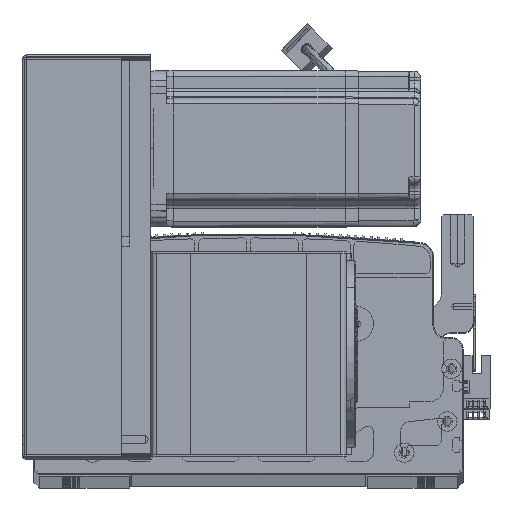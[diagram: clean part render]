
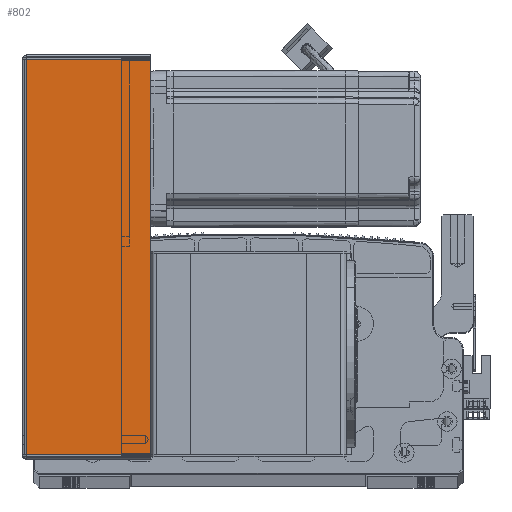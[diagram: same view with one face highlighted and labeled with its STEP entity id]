
A CAD part, top view. The second image highlights one B-rep face of the part: STEP entity #802.
In plain terms, the highlighted planar face has unit normal (0, 0, 1) as drawn and (0, 1, 0) by its records, which use the part's own axes.
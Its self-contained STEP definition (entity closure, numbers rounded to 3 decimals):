
#802 = ADVANCED_FACE ( 'NONE', ( #12899 ), #76500, .F. ) ;
#1323 = CARTESIAN_POINT ( 'NONE',  ( 0., 107.5, -0.707 ) ) ;
#5821 = VECTOR ( 'NONE', #61896, 1000. ) ;
#8037 = CARTESIAN_POINT ( 'NONE',  ( 0.737, 107.5, 0. ) ) ;
#8517 = EDGE_CURVE ( 'NONE', #80560, #57475, #22954, .T. ) ;
#12899 = FACE_OUTER_BOUND ( 'NONE', #76445, .T. ) ;
#22393 = LINE ( 'NONE', #1323, #85388 ) ;
#22954 = LINE ( 'NONE', #35518, #89716 ) ;
#26119 = DIRECTION ( 'NONE',  ( 1., 0., 0. ) ) ;
#27043 = CARTESIAN_POINT ( 'NONE',  ( 0., 107.5, -203.293 ) ) ;
#28898 = CARTESIAN_POINT ( 'NONE',  ( 0., 107.5, 0. ) ) ;
#29559 = DIRECTION ( 'NONE',  ( 0., -1., 0. ) ) ;
#35427 = LINE ( 'NONE', #8037, #5821 ) ;
#35518 = CARTESIAN_POINT ( 'NONE',  ( 64.5, 107.5, -204. ) ) ;
#37828 = ORIENTED_EDGE ( 'NONE', *, *, #75712, .F. ) ;
#43260 = ORIENTED_EDGE ( 'NONE', *, *, #96520, .F. ) ;
#48698 = VERTEX_POINT ( 'NONE', #71102 ) ;
#52841 = CARTESIAN_POINT ( 'NONE',  ( 64.5, 107.5, -0.707 ) ) ;
#57475 = VERTEX_POINT ( 'NONE', #60603 ) ;
#60603 = CARTESIAN_POINT ( 'NONE',  ( 64.5, 107.5, -203.293 ) ) ;
#61896 = DIRECTION ( 'NONE',  ( 0., 0., -1. ) ) ;
#71102 = CARTESIAN_POINT ( 'NONE',  ( 0.737, 107.5, -0.707 ) ) ;
#72815 = EDGE_CURVE ( 'NONE', #48698, #80560, #22393, .T. ) ;
#74202 = LINE ( 'NONE', #27043, #92721 ) ;
#75712 = EDGE_CURVE ( 'NONE', #48698, #91157, #35427, .T. ) ;
#76445 = EDGE_LOOP ( 'NONE', ( #37828, #85493, #100724, #43260 ) ) ;
#76500 = PLANE ( 'NONE',  #82422 ) ;
#80560 = VERTEX_POINT ( 'NONE', #52841 ) ;
#82422 = AXIS2_PLACEMENT_3D ( 'NONE', #28898, #29559, #91706 ) ;
#85388 = VECTOR ( 'NONE', #26119, 1000. ) ;
#85493 = ORIENTED_EDGE ( 'NONE', *, *, #72815, .T. ) ;
#89716 = VECTOR ( 'NONE', #91415, 1000. ) ;
#91157 = VERTEX_POINT ( 'NONE', #96537 ) ;
#91415 = DIRECTION ( 'NONE',  ( 0., 0., -1. ) ) ;
#91706 = DIRECTION ( 'NONE',  ( 1., 0., 0. ) ) ;
#92721 = VECTOR ( 'NONE', #97083, 1000. ) ;
#96520 = EDGE_CURVE ( 'NONE', #91157, #57475, #74202, .T. ) ;
#96537 = CARTESIAN_POINT ( 'NONE',  ( 0.737, 107.5, -203.293 ) ) ;
#97083 = DIRECTION ( 'NONE',  ( 1., 0., 0. ) ) ;
#100724 = ORIENTED_EDGE ( 'NONE', *, *, #8517, .T. ) ;
